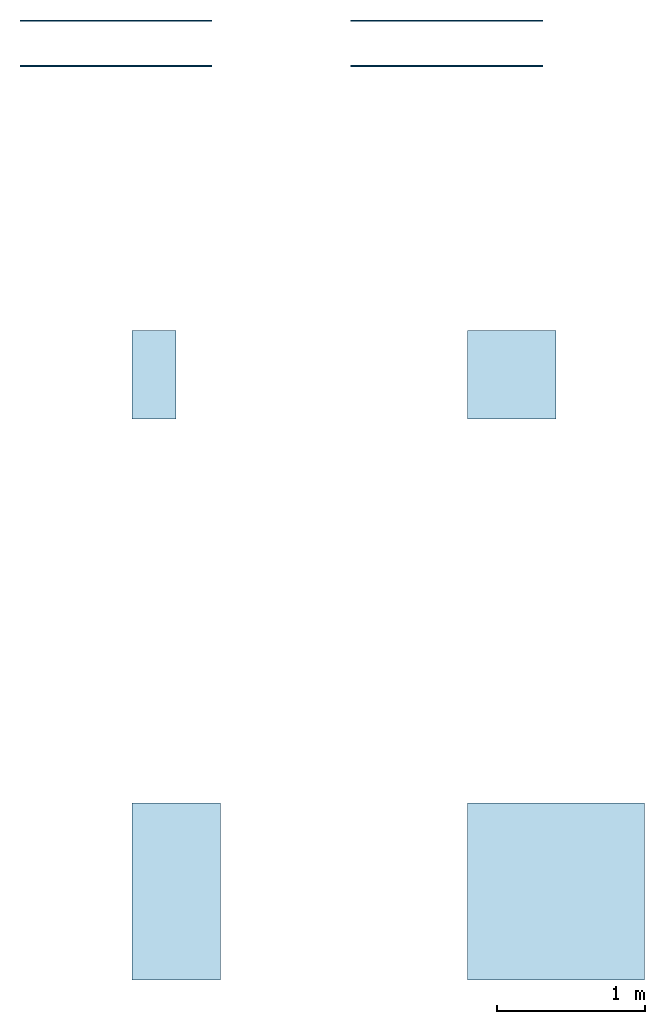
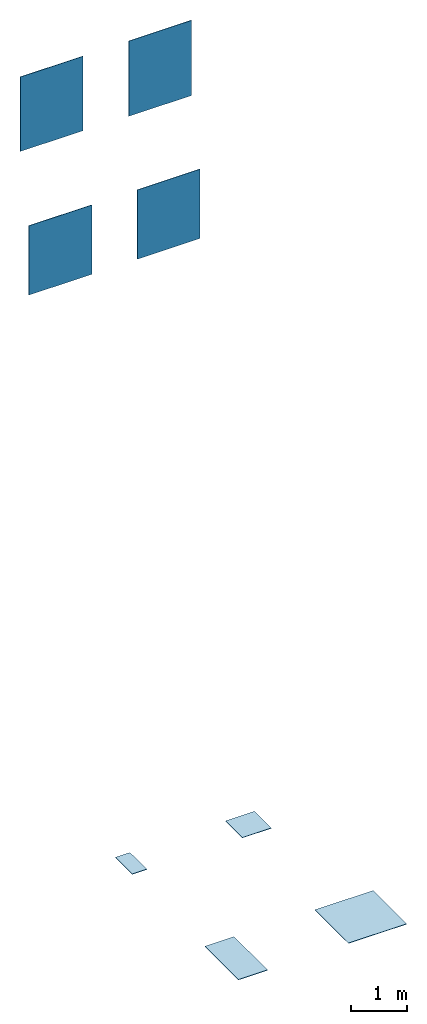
# One storey: 4 slabs, 4 walls.
"""IFC2X3 building model written with IfcOpenShell, lengths in millimetres."""

import ifcopenshell
import ifcopenshell.guid

model = None  # the IFC model being written
_history = None  # IfcOwnerHistory: only IFC2X3 demands one
_inside = {}  # id of a spatial element -> (the spatial element, [elements in it])
_under = {}  # id of a project, library or spatial element -> (it, [spatial elements below it])
_declared = {}  # id of a project -> (the project, [libraries it declares])
_typed = {}  # id of a type object -> (the type object, [elements of that type])
_made_of = {}  # id of a material, layer set ... -> (it, [elements and type objects made of it])


def new_model(schema):
    """Start an empty IFC model of exactly this schema.

    Asked for "IFC4X3", IfcOpenShell would pick the latest addendum, in which some entities
    have other attributes; the version numbers below select the first issue.
    IFC2X3 requires an IfcOwnerHistory on every rooted entity: one is made here for all.
    """
    global model, _history
    if schema == "IFC4X3":
        model = ifcopenshell.file(schema_version=(4, 3, 0, 0))
    else:
        model = ifcopenshell.file(schema=schema)
    _inside.clear()
    _under.clear()
    _declared.clear()
    _typed.clear()
    _made_of.clear()
    _history = None
    if model.schema == "IFC2X3":
        org = make("IfcOrganization", Name="unknown")
        user = make(
            "IfcPersonAndOrganization",
            ThePerson=make("IfcPerson", FamilyName="unknown"),
            TheOrganization=org,
        )
        app = make(
            "IfcApplication",
            ApplicationDeveloper=org,
            Version="unknown",
            ApplicationFullName="unknown",
            ApplicationIdentifier="unknown",
        )
        _history = make(
            "IfcOwnerHistory",
            OwningUser=user,
            OwningApplication=app,
            ChangeAction="ADDED",
            CreationDate=0,
        )
    return model


def make(cls, **values):
    """One entity of the class cls with the attributes given. An attribute that is None is left unset."""
    return model.create_entity(
        cls, **{name: value for name, value in values.items() if value is not None}
    )


def entity(cls, *values):
    """Any entity or typed value of the class cls, its attributes in the order of the schema. None: left unset."""
    e = model.create_entity(cls)
    for i, value in enumerate(values):
        if value is not None:
            e[i] = value
    return e


def rooted(cls, **values):
    """An entity with a GlobalId (a new one), such as an element, a storey or a relation."""
    return make(cls, GlobalId=ifcopenshell.guid.new(), OwnerHistory=_history, **values)


def si_unit(unit_type, name, prefix=None):
    """IfcSIUnit, for example si_unit("LENGTHUNIT", "METRE", prefix="MILLI")."""
    return make("IfcSIUnit", UnitType=unit_type, Prefix=prefix, Name=name)


def converted_unit(unit_type, name, factor, base, dimensions=None, offset=None):
    """IfcConversionBasedUnit, such as the inch: factor (a typed value) times the base unit."""
    return make(
        "IfcConversionBasedUnit"
        if offset is None
        else "IfcConversionBasedUnitWithOffset",
        ConversionOffset=offset,
        Dimensions=None
        if dimensions is None
        else entity("IfcDimensionalExponents", *dimensions),
        UnitType=unit_type,
        Name=name,
        ConversionFactor=make(
            "IfcMeasureWithUnit", ValueComponent=factor, UnitComponent=base
        ),
    )


def derived_unit(unit_type, elements):
    """IfcDerivedUnit: a product of units, each with its exponent."""
    return make(
        "IfcDerivedUnit",
        Elements=[
            make("IfcDerivedUnitElement", Unit=unit, Exponent=power)
            for unit, power in elements
        ],
        UnitType=unit_type,
    )


def assignment(units):
    """IfcUnitAssignment: the units of a project."""
    return None if units is None else make("IfcUnitAssignment", Units=units)


def point(xyz):
    """IfcCartesianPoint."""
    return None if xyz is None else make("IfcCartesianPoint", Coordinates=xyz)


def direction(xyz):
    """IfcDirection."""
    return None if xyz is None else make("IfcDirection", DirectionRatios=xyz)


def frame(location, z_axis=None, x_axis=None):
    """IfcAxis2Placement3D, a coordinate frame: its origin and axes. An axis left out is left unset."""
    return make(
        "IfcAxis2Placement3D",
        Location=point(location),
        Axis=direction(z_axis),
        RefDirection=direction(x_axis),
    )


def frame_2d(location, x_axis=None):
    """IfcAxis2Placement2D, a coordinate frame in the plane: its origin and x axis."""
    return make(
        "IfcAxis2Placement2D", Location=point(location), RefDirection=direction(x_axis)
    )


def origin():
    """The frame at (0, 0, 0) with its axes left unset."""
    return frame((0.0, 0.0, 0.0))


def origin_2d_with_axis():
    """The frame at (0, 0) in the plane with the x axis (1, 0) written out."""
    return frame_2d((0.0, 0.0), x_axis=(1.0, 0.0))


def place(relative_to, where):
    """IfcLocalPlacement: puts the frame where relative to a parent placement (None: the world)."""
    return make(
        "IfcLocalPlacement", PlacementRelTo=relative_to, RelativePlacement=where
    )


def context(
    kind, dimensions, precision=None, world=None, true_north=None, identifier=None
):
    """IfcGeometricRepresentationContext, for example the 3D "Model" context."""
    return make(
        "IfcGeometricRepresentationContext",
        ContextIdentifier=identifier,
        ContextType=kind,
        CoordinateSpaceDimension=dimensions,
        Precision=precision,
        WorldCoordinateSystem=world,
        TrueNorth=true_north,
    )


def subcontext(parent, identifier, kind, view, scale=None):
    """IfcGeometricRepresentationSubContext, for example "Body" below "Model"."""
    return make(
        "IfcGeometricRepresentationSubContext",
        ContextIdentifier=identifier,
        ContextType=kind,
        ParentContext=parent,
        TargetScale=scale,
        TargetView=view,
    )


def project(units=None, contexts=None):
    """IfcProject with its units and contexts."""
    return rooted(
        "IfcProject",
        Name="project",
        RepresentationContexts=contexts,
        UnitsInContext=assignment(units),
    )


def spatial(cls, under=None, at=None, **own):
    """A site, building, storey or space (cls), placed at a placement, below another one or the project."""
    s = rooted(cls, ObjectPlacement=at, **own)
    if under is not None:
        _under.setdefault(under.id(), (under, []))[1].append(s)
    return s


def profile(cls, at=None, kind="AREA", **sizes):
    """A parametric profile (cls). Its sizes go by their IFC names, for example OverallWidth=200.0."""
    return make(cls, ProfileType=kind, Position=at, **sizes)


def rectangle(**sizes):
    """IfcRectangleProfileDef."""
    return profile("IfcRectangleProfileDef", **sizes)


def extrude(swept, where, along, depth):
    """IfcExtrudedAreaSolid: the profile swept, set in the frame where, extruded along a direction by depth."""
    return make(
        "IfcExtrudedAreaSolid",
        SweptArea=swept,
        Position=where,
        ExtrudedDirection=direction(along),
        Depth=depth,
    )


def shape(context_of_items, identifier, shape_type, items):
    """IfcShapeRepresentation: the items that make up one representation, for example the "Body"."""
    return make(
        "IfcShapeRepresentation",
        ContextOfItems=context_of_items,
        RepresentationIdentifier=identifier,
        RepresentationType=shape_type,
        Items=items,
    )


def material(Name=None, Category=None):
    """IfcMaterial."""
    return make("IfcMaterial", Name=Name, Category=Category)


def layer(
    of_material, thickness, ventilated=None, Name=None, Category=None, Priority=None
):
    """IfcMaterialLayer: one layer of a wall or slab, of a material (None: an air gap)."""
    return make(
        "IfcMaterialLayer",
        Material=of_material,
        LayerThickness=thickness,
        IsVentilated=ventilated,
        Name=Name,
        Category=Category,
        Priority=Priority,
    )


def layer_set(layers, Name=None):
    """IfcMaterialLayerSet."""
    return make("IfcMaterialLayerSet", MaterialLayers=layers, LayerSetName=Name)


def layer_usage(for_layer_set, set_direction, sense, offset, extent=None):
    """IfcMaterialLayerSetUsage: how a layer set lies in its element."""
    return make(
        "IfcMaterialLayerSetUsage",
        ForLayerSet=for_layer_set,
        LayerSetDirection=set_direction,
        DirectionSense=sense,
        OffsetFromReferenceLine=offset,
        ReferenceExtent=extent,
    )


def made_of(thing, what):
    """Note that an element or type object is made of a material, layer set ...; save() writes the relation."""
    if what is not None:
        _made_of.setdefault(what.id(), (what, []))[1].append(thing)
    return thing


def type_object(cls, material=None, **own):
    """A type object (cls), such as IfcWallType, which elements share."""
    return made_of(rooted(cls, **own), material)


def element(
    cls,
    number,
    at=None,
    inside=None,
    cuts=None,
    type_object=None,
    material=None,
    context=None,
    identifier="Body",
    shape_type=None,
    held_by="IfcProductDefinitionShape",
    body=None,
    shapes=None,
    **own,
):
    """One element of the class cls, such as IfcWall. Its Tag is "e" and its number.

    at: its placement. inside: the storey or other place that contains it. cuts: it is an
    opening in that element (IfcRelVoidsElement). A single representation is given by context,
    identifier, shape_type and body (its items); several are given by shapes. held_by: the class
    of the entity that holds the representations. save() writes the other relations.
    """
    e = rooted(cls, Tag="e%d" % number, ObjectPlacement=at, **own)
    if body is not None:
        shapes = [shape(context, identifier, shape_type, body)]
    if shapes is not None:
        e.Representation = make(held_by, Representations=shapes)
    if inside is not None:
        _inside.setdefault(inside.id(), (inside, []))[1].append(e)
    if cuts is not None:
        rooted(
            "IfcRelVoidsElement", RelatingBuildingElement=cuts, RelatedOpeningElement=e
        )
    if type_object is not None:
        _typed.setdefault(type_object.id(), (type_object, []))[1].append(e)
    return made_of(e, material)


def aggregate(whole, parts):
    """IfcRelAggregates: a whole, such as a stair, and the parts it consists of."""
    return rooted("IfcRelAggregates", RelatingObject=whole, RelatedObjects=parts)


def save(model, path):
    """Write the relations noted so far, then the file.

    IfcRelAggregates (storeys below a building ...), IfcRelContainedInSpatialStructure (elements
    in a storey), IfcRelDefinesByType, IfcRelAssociatesMaterial and IfcRelDeclares: one each for
    every whole, place, type object, material and project.
    """
    for whole, parts in _under.values():
        aggregate(whole, parts)
    for where, things in _inside.values():
        rooted(
            "IfcRelContainedInSpatialStructure",
            RelatedElements=things,
            RelatingStructure=where,
        )
    for kind, things in _typed.values():
        rooted("IfcRelDefinesByType", RelatedObjects=things, RelatingType=kind)
    for what, things in _made_of.values():
        rooted("IfcRelAssociatesMaterial", RelatedObjects=things, RelatingMaterial=what)
    for by, libraries in _declared.values():
        rooted("IfcRelDeclares", RelatingContext=by, RelatedDefinitions=libraries)
    model.write(path)


model = new_model("IFC2X3")

# Units and contexts
model_context = context("Model", 3, precision=0.01, world=origin(), true_north=direction((6.12303176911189e-17, 1.0)))
body_context = subcontext(model_context, "Body", "Model", "MODEL_VIEW")
ifc_project = project(units=[si_unit("LENGTHUNIT", "METRE", prefix="MILLI"), si_unit("AREAUNIT", "SQUARE_METRE"), si_unit("VOLUMEUNIT", "CUBIC_METRE"), converted_unit("PLANEANGLEUNIT", "DEGREE", entity("IfcRatioMeasure", 0.0174532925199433), si_unit("PLANEANGLEUNIT", "RADIAN"), dimensions=[0, 0, 0, 0, 0, 0, 0]), si_unit("MASSUNIT", "GRAM", prefix="KILO"), derived_unit("MASSDENSITYUNIT", [(si_unit("MASSUNIT", "GRAM", prefix="KILO"), 1), (si_unit("LENGTHUNIT", "METRE"), -3)]), derived_unit("MOMENTOFINERTIAUNIT", [(si_unit("LENGTHUNIT", "METRE"), 4)]), si_unit("TIMEUNIT", "SECOND"), si_unit("FREQUENCYUNIT", "HERTZ"), si_unit("THERMODYNAMICTEMPERATUREUNIT", "DEGREE_CELSIUS"), derived_unit("THERMALTRANSMITTANCEUNIT", [(si_unit("MASSUNIT", "GRAM", prefix="KILO"), 1), (si_unit("THERMODYNAMICTEMPERATUREUNIT", "KELVIN"), -1), (si_unit("TIMEUNIT", "SECOND"), -3)]), derived_unit("VOLUMETRICFLOWRATEUNIT", [(si_unit("LENGTHUNIT", "METRE"), 3), (si_unit("TIMEUNIT", "SECOND"), -1)]), si_unit("ELECTRICCURRENTUNIT", "AMPERE"), si_unit("ELECTRICVOLTAGEUNIT", "VOLT"), si_unit("POWERUNIT", "WATT"), si_unit("FORCEUNIT", "NEWTON", prefix="KILO"), si_unit("ILLUMINANCEUNIT", "LUX"), si_unit("LUMINOUSFLUXUNIT", "LUMEN"), si_unit("LUMINOUSINTENSITYUNIT", "CANDELA"), derived_unit("USERDEFINED", [(si_unit("MASSUNIT", "GRAM", prefix="KILO"), -1), (si_unit("LENGTHUNIT", "METRE"), -2), (si_unit("TIMEUNIT", "SECOND"), 3), (si_unit("LUMINOUSFLUXUNIT", "LUMEN"), 1)]), derived_unit("LINEARVELOCITYUNIT", [(si_unit("LENGTHUNIT", "METRE"), 1), (si_unit("TIMEUNIT", "SECOND"), -1)]), si_unit("PRESSUREUNIT", "PASCAL"), derived_unit("USERDEFINED", [(si_unit("LENGTHUNIT", "METRE"), -2), (si_unit("MASSUNIT", "GRAM", prefix="KILO"), 1), (si_unit("TIMEUNIT", "SECOND"), -2)]), derived_unit("LINEARFORCEUNIT", [(si_unit("MASSUNIT", "GRAM", prefix="KILO"), 1), (si_unit("LENGTHUNIT", "METRE"), 1), (si_unit("TIMEUNIT", "SECOND"), -2), (si_unit("LENGTHUNIT", "METRE"), -1)]), derived_unit("PLANARFORCEUNIT", [(si_unit("MASSUNIT", "GRAM", prefix="KILO"), 1), (si_unit("LENGTHUNIT", "METRE"), 1), (si_unit("TIMEUNIT", "SECOND"), -2), (si_unit("LENGTHUNIT", "METRE"), -2)])], contexts=[model_context])

# Site, building, storey
site_placement = place(None, origin())
site = spatial("IfcSite", under=ifc_project, at=site_placement, Name="Default", CompositionType="ELEMENT")
building_placement = place(site_placement, origin())
building = spatial("IfcBuilding", under=site, at=building_placement, CompositionType="ELEMENT")
storey_placement = place(building_placement, origin())
storey = spatial("IfcBuildingStorey", under=building, at=storey_placement, Name="Level 0", CompositionType="ELEMENT", Elevation=0.0)

# Slabs
ifc_material_1 = material(Name="Play-Grey-30x60 OC60")
ifc_layer_1 = layer(ifc_material_1, 9.0)
ifc_material_2 = material(Name="<Unnamed>")
ifc_layer_2 = layer(ifc_material_2, 1.0)
ifc_layer_set_1 = layer_set([ifc_layer_1, ifc_layer_2], Name="Floor:Floor_Tiles_Refin-Play-Grey-30x60 OC60")
ifc_layer_usage_1 = layer_usage(ifc_layer_set_1, "AXIS3", "POSITIVE", 0.0)
slab_type_1 = type_object("IfcSlabType", Name="Floor:Floor_Tiles_Refin-Play-Grey-30x60 OC60", PredefinedType="FLOOR", material=ifc_layer_set_1)
slab_1_placement = place(storey_placement, origin())
element("IfcSlab", 1, at=slab_1_placement, inside=storey, type_object=slab_type_1, material=ifc_layer_usage_1, Name="Floor:Floor_Tiles_Refin-Play-Grey-30x60 OC60", ObjectType="Floor:Floor_Tiles_Refin-Play-Grey-30x60 OC60", PredefinedType="FLOOR", context=body_context, shape_type="SweptSolid", body=[
    extrude(rectangle(XDim=600.0, YDim=300.0, at=frame_2d((0.0, -5.40012479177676e-13), x_axis=(1.0, 0.0))), frame((6824.37520617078, 5739.4623742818, 0.0), z_axis=(0.0, 0.0, -1.0), x_axis=(0.0, 1.0, 0.0)), (0.0, 0.0, 1.0), 10.0),
])
ifc_material_3 = material(Name="Play-Grey-120x120 OC66")
ifc_layer_3 = layer(ifc_material_3, 9.0)
ifc_layer_4 = layer(ifc_material_2, 1.0)
ifc_layer_set_2 = layer_set([ifc_layer_3, ifc_layer_4], Name="Floor:Floor_Tiles_Refin-Play-Grey-120x120 OC66")
ifc_layer_usage_2 = layer_usage(ifc_layer_set_2, "AXIS3", "POSITIVE", 0.0)
slab_type_2 = type_object("IfcSlabType", Name="Floor:Floor_Tiles_Refin-Play-Grey-120x120 OC66", PredefinedType="FLOOR", material=ifc_layer_set_2)
slab_2_placement = place(storey_placement, origin())
element("IfcSlab", 2, at=slab_2_placement, inside=storey, type_object=slab_type_2, material=ifc_layer_usage_2, Name="Floor:Floor_Tiles_Refin-Play-Grey-120x120 OC66", ObjectType="Floor:Floor_Tiles_Refin-Play-Grey-120x120 OC66", PredefinedType="FLOOR", context=body_context, shape_type="SweptSolid", body=[
    extrude(rectangle(XDim=1200.0, YDim=1200.0, at=origin_2d_with_axis()), frame((9547.39240545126, 2239.4623742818, 0.0), z_axis=(0.0, 0.0, -1.0), x_axis=(0.0, 1.0, 0.0)), (0.0, 0.0, 1.0), 10.0),
])
ifc_material_4 = material(Name="Play-Grey-60x120 OC72")
ifc_layer_5 = layer(ifc_material_4, 9.0)
ifc_layer_6 = layer(ifc_material_2, 1.0)
ifc_layer_set_3 = layer_set([ifc_layer_5, ifc_layer_6], Name="Floor:Floor_Tiles_Refin-Play-Grey-60x120 OC72")
ifc_layer_usage_3 = layer_usage(ifc_layer_set_3, "AXIS3", "POSITIVE", 0.0)
slab_type_3 = type_object("IfcSlabType", Name="Floor:Floor_Tiles_Refin-Play-Grey-60x120 OC72", PredefinedType="FLOOR", material=ifc_layer_set_3)
slab_3_placement = place(storey_placement, origin())
element("IfcSlab", 3, at=slab_3_placement, inside=storey, type_object=slab_type_3, material=ifc_layer_usage_3, Name="Floor:Floor_Tiles_Refin-Play-Grey-60x120 OC72", ObjectType="Floor:Floor_Tiles_Refin-Play-Grey-60x120 OC72", PredefinedType="FLOOR", context=body_context, shape_type="SweptSolid", body=[
    extrude(rectangle(XDim=1200.0, YDim=600.0, at=frame_2d((0.0, 1.08002495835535e-12), x_axis=(1.0, 0.0))), frame((6974.37520617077, 2239.4623742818, 0.0), z_axis=(0.0, 0.0, -1.0), x_axis=(0.0, 1.0, 0.0)), (0.0, 0.0, 1.0), 10.0),
])
ifc_material_5 = material(Name="Play-Grey-60x60 OC54")
ifc_layer_7 = layer(ifc_material_5, 9.0)
ifc_layer_8 = layer(ifc_material_2, 1.0)
ifc_layer_set_4 = layer_set([ifc_layer_7, ifc_layer_8], Name="Floor:Floor_Tiles_Refin-Play-Grey-60x60 OC54")
ifc_layer_usage_4 = layer_usage(ifc_layer_set_4, "AXIS3", "POSITIVE", 0.0)
slab_type_4 = type_object("IfcSlabType", Name="Floor:Floor_Tiles_Refin-Play-Grey-60x60 OC54", PredefinedType="FLOOR", material=ifc_layer_set_4)
slab_4_placement = place(storey_placement, origin())
element("IfcSlab", 4, at=slab_4_placement, inside=storey, type_object=slab_type_4, material=ifc_layer_usage_4, Name="Floor:Floor_Tiles_Refin-Play-Grey-60x60 OC54", ObjectType="Floor:Floor_Tiles_Refin-Play-Grey-60x60 OC54", PredefinedType="FLOOR", context=body_context, shape_type="SweptSolid", body=[
    extrude(rectangle(XDim=600.0, YDim=600.0, at=origin_2d_with_axis()), frame((9247.39240545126, 5738.41920639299, 0.0), z_axis=(0.0, 0.0, -1.0), x_axis=(0.0, 1.0, 0.0)), (0.0, 0.0, 1.0), 10.0),
])

# Walls
ifc_layer_9 = layer(ifc_material_2, 1.0)
ifc_layer_10 = layer(ifc_material_5, 9.0)
ifc_layer_set_5 = layer_set([ifc_layer_9, ifc_layer_10], Name="Basic Wall:Wall_Tiles_Refin-Play-Grey-60x60 OC54")
ifc_layer_usage_5 = layer_usage(ifc_layer_set_5, "AXIS2", "NEGATIVE", 5.0)
wall_type_1 = type_object("IfcWallType", Name="Basic Wall:Wall_Tiles_Refin-Play-Grey-60x60 OC54", PredefinedType="STANDARD", material=ifc_layer_set_5)
wall_1_placement = place(storey_placement, frame((8157.37520617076, 8137.38386313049, 14387.6770443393)))
element("IfcWallStandardCase", 5, at=wall_1_placement, inside=storey, type_object=wall_type_1, material=ifc_layer_usage_5, Name="Basic Wall:Wall_Tiles_Refin-Play-Grey-60x60 OC54", ObjectType="Basic Wall:Wall_Tiles_Refin-Play-Grey-60x60 OC54", context=body_context, shape_type="SweptSolid", body=[
    extrude(rectangle(XDim=1300.0, YDim=9.99999999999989, at=frame_2d((650.0, 7.63833440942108e-14), x_axis=(-1.0, 0.0))), origin(), (0.0, 0.0, 1.0), 1641.74173522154),
])
ifc_layer_11 = layer(ifc_material_2, 1.0)
ifc_layer_12 = layer(ifc_material_1, 9.0)
ifc_layer_set_6 = layer_set([ifc_layer_11, ifc_layer_12], Name="Basic Wall:Wall_Tiles_Refin-Play-Grey-30x60 OC60")
ifc_layer_usage_6 = layer_usage(ifc_layer_set_6, "AXIS2", "NEGATIVE", 5.0)
wall_type_2 = type_object("IfcWallType", Name="Basic Wall:Wall_Tiles_Refin-Play-Grey-30x60 OC60", PredefinedType="STANDARD", material=ifc_layer_set_6)
wall_2_placement = place(storey_placement, frame((5917.37520617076, 8137.38386313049, 14403.726734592)))
element("IfcWallStandardCase", 6, at=wall_2_placement, inside=storey, type_object=wall_type_2, material=ifc_layer_usage_6, Name="Basic Wall:Wall_Tiles_Refin-Play-Grey-30x60 OC60", ObjectType="Basic Wall:Wall_Tiles_Refin-Play-Grey-30x60 OC60", context=body_context, shape_type="SweptSolid", body=[
    extrude(rectangle(XDim=1300.0, YDim=9.99999999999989, at=frame_2d((650.0, 7.63833440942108e-14), x_axis=(-1.0, 0.0))), origin(), (0.0, 0.0, 1.0), 1625.69204496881),
])
ifc_layer_13 = layer(ifc_material_2, 1.0)
ifc_layer_14 = layer(ifc_material_4, 9.0)
ifc_layer_set_7 = layer_set([ifc_layer_13, ifc_layer_14], Name="Basic Wall:Wall_Tiles_Refin-Play-Grey-60x120 OC72")
ifc_layer_usage_7 = layer_usage(ifc_layer_set_7, "AXIS2", "NEGATIVE", 5.0)
wall_type_3 = type_object("IfcWallType", Name="Basic Wall:Wall_Tiles_Refin-Play-Grey-60x120 OC72", PredefinedType="STANDARD", material=ifc_layer_set_7)
wall_3_placement = place(storey_placement, frame((5917.37520617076, 7832.38386313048, 11452.5436262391)))
element("IfcWallStandardCase", 7, at=wall_3_placement, inside=storey, type_object=wall_type_3, material=ifc_layer_usage_7, Name="Basic Wall:Wall_Tiles_Refin-Play-Grey-60x120 OC72", ObjectType="Basic Wall:Wall_Tiles_Refin-Play-Grey-60x120 OC72", context=body_context, shape_type="SweptSolid", body=[
    extrude(rectangle(XDim=1300.0, YDim=9.99999999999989, at=frame_2d((650.0, 0.0), x_axis=(-1.0, 0.0))), origin(), (0.0, 0.0, 1.0), 1513.19855655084),
])
ifc_layer_15 = layer(ifc_material_2, 1.0)
ifc_layer_16 = layer(ifc_material_3, 9.0)
ifc_layer_set_8 = layer_set([ifc_layer_15, ifc_layer_16], Name="Basic Wall:Wall_Tiles_Refin-Play-Grey-120x120 OC66")
ifc_layer_usage_8 = layer_usage(ifc_layer_set_8, "AXIS2", "NEGATIVE", 5.0)
wall_type_4 = type_object("IfcWallType", Name="Basic Wall:Wall_Tiles_Refin-Play-Grey-120x120 OC66", PredefinedType="STANDARD", material=ifc_layer_set_8)
wall_4_placement = place(storey_placement, frame((8157.37520617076, 7832.38386313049, 11452.5436262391)))
element("IfcWallStandardCase", 8, at=wall_4_placement, inside=storey, type_object=wall_type_4, material=ifc_layer_usage_8, Name="Basic Wall:Wall_Tiles_Refin-Play-Grey-120x120 OC66", ObjectType="Basic Wall:Wall_Tiles_Refin-Play-Grey-120x120 OC66", context=body_context, shape_type="SweptSolid", body=[
    extrude(rectangle(XDim=1300.0, YDim=9.99999999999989, at=frame_2d((650.0, 0.0), x_axis=(-1.0, 0.0))), origin(), (0.0, 0.0, 1.0), 1513.19855655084),
])

save(model, "model.ifc")
